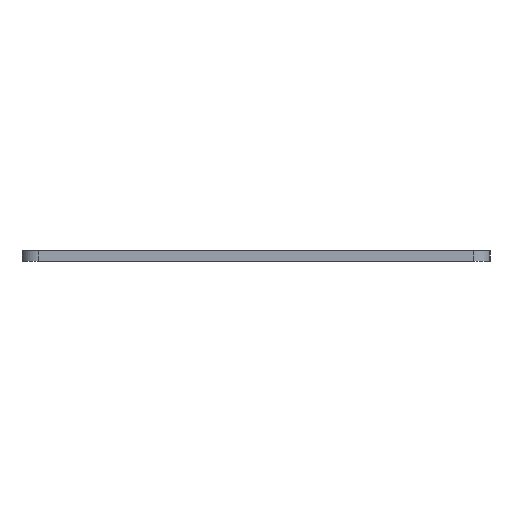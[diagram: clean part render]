
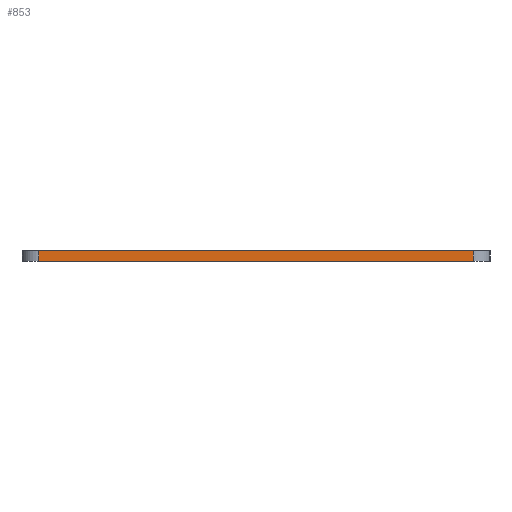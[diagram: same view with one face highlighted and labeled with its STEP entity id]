
A CAD part, left-side view. The second image highlights one B-rep face of the part: STEP entity #853.
In plain terms, the highlighted planar face has unit normal (-1, 0, 0).
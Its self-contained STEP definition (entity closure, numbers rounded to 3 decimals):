
#28=PLANE('',#940);
#51=FACE_OUTER_BOUND('',#101,.T.);
#101=EDGE_LOOP('',(#619,#620,#621,#622));
#149=LINE('',#1275,#231);
#151=LINE('',#1281,#233);
#171=LINE('',#1363,#253);
#172=LINE('',#1364,#254);
#231=VECTOR('',#1011,10.);
#233=VECTOR('',#1017,10.);
#253=VECTOR('',#1081,10.);
#254=VECTOR('',#1082,10.);
#360=VERTEX_POINT('',#1272);
#361=VERTEX_POINT('',#1274);
#363=VERTEX_POINT('',#1280);
#403=VERTEX_POINT('',#1362);
#446=EDGE_CURVE('',#360,#361,#149,.T.);
#449=EDGE_CURVE('',#363,#361,#151,.T.);
#490=EDGE_CURVE('',#403,#360,#171,.T.);
#491=EDGE_CURVE('',#363,#403,#172,.T.);
#619=ORIENTED_EDGE('',*,*,#446,.F.);
#620=ORIENTED_EDGE('',*,*,#490,.F.);
#621=ORIENTED_EDGE('',*,*,#491,.F.);
#622=ORIENTED_EDGE('',*,*,#449,.T.);
#853=ADVANCED_FACE('',(#51),#28,.T.);
#940=AXIS2_PLACEMENT_3D('',#1361,#1079,#1080);
#1011=DIRECTION('',(0.,0.,-1.));
#1017=DIRECTION('',(0.,-1.,0.));
#1079=DIRECTION('center_axis',(-1.,0.,0.));
#1080=DIRECTION('ref_axis',(0.,-1.,0.));
#1081=DIRECTION('',(0.,-1.,0.));
#1082=DIRECTION('',(0.,0.,1.));
#1272=CARTESIAN_POINT('',(-160.,-65.,3.));
#1274=CARTESIAN_POINT('',(-160.,-65.,0.));
#1275=CARTESIAN_POINT('',(-160.,-65.,0.));
#1280=CARTESIAN_POINT('',(-160.,65.,0.));
#1281=CARTESIAN_POINT('',(-160.,70.,0.));
#1361=CARTESIAN_POINT('Origin',(-160.,70.,0.));
#1362=CARTESIAN_POINT('',(-160.,65.,3.));
#1363=CARTESIAN_POINT('',(-160.,70.,3.));
#1364=CARTESIAN_POINT('',(-160.,65.,0.));
